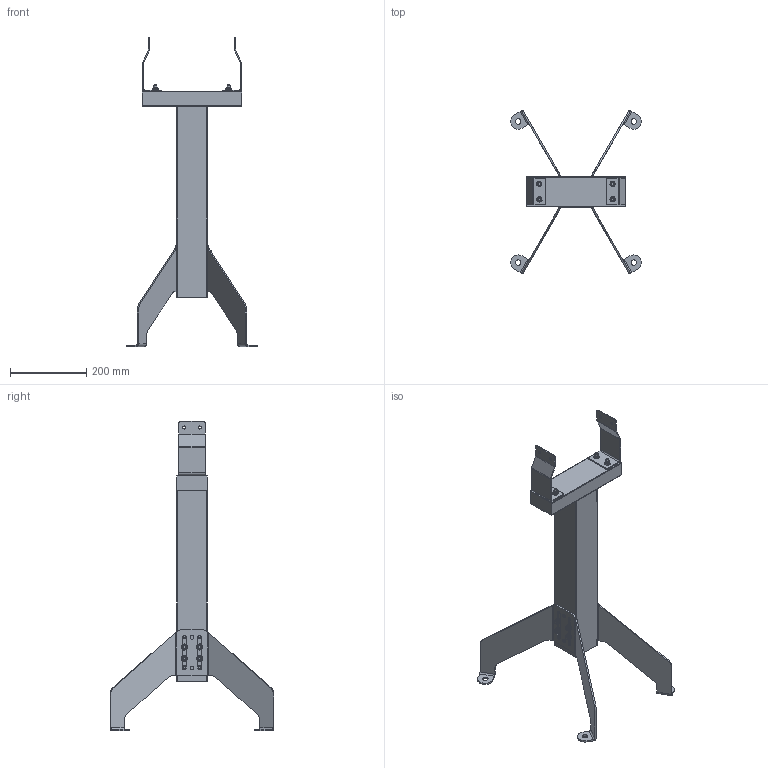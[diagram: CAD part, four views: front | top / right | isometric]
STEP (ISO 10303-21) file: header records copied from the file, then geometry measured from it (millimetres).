
FILE_DESCRIPTION(/* description */ ('LEG SUPPORT S560'),/* implementation_level */ '2;1');
FILE_NAME(/* name */ '500-1378.stp',/* time_stamp */ '2022-09-16T09:40:41+02:00',/* author */ ('PL'),/* organization */ ('CARRYLINE'),/* preprocessor_version */ 'ST-DEVELOPER v19.2',/* originating_system */ 'Autodesk Inventor 2023',/* authorisation */ '');
FILE_SCHEMA (('AUTOMOTIVE_DESIGN { 1 0 10303 214 3 1 1 }'));
Length unit declared in the file: millimetre
Products named in the file (11): 500-1378; 500-1030; 16757_3; 5500-816; 500-1020; 500-1240; 5600-816; 500-1155; 5552-8; 5540-8; WELDING BOLT M8x16
Assembly tree (36 placements, depth 2):
  500-1378
    500-1030
    16757_3  x2
    5540-8  x8
    5500-816  x4
    500-1020
    500-1240  x2
    5600-816  x4
    5552-8  x8
    500-1155  x2
    WELDING BOLT M8x16  x4
Bounding box: 342.35 x 429.19 x 809.98 mm (x, y, z)
Volume: 992756.5 mm3; surface area: 762389.3 mm2
Topology: 36 solids, 37 shells, 502 faces, 1192 edges, 776 vertices
Faces by surface type: plane 250, cylinder 168, cone 72, torus 8, bspline 4
Full cylindrical faces by diameter (mm): 6.647 x20, 8 x12, 8.2 x8, 8.4 x8, 9 x12, 10 x4, 11.6 x8, 11.63 x4, 14.2 x4, 16 x8
Entity records: 6439 total; most frequent: CARTESIAN_POINT 1236, DIRECTION 1065, ORIENTED_EDGE 928, EDGE_CURVE 464, AXIS2_PLACEMENT_3D 400, VERTEX_POINT 305, LINE 265, VECTOR 265
